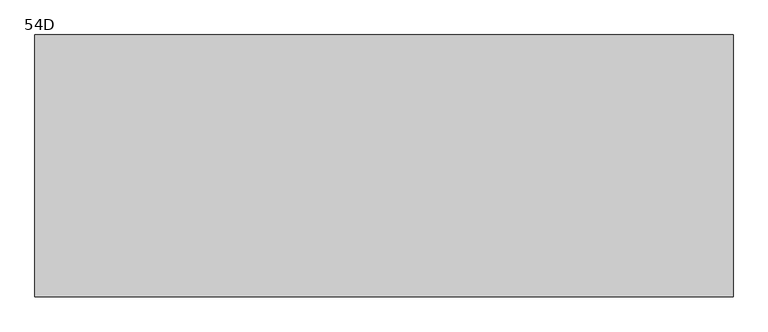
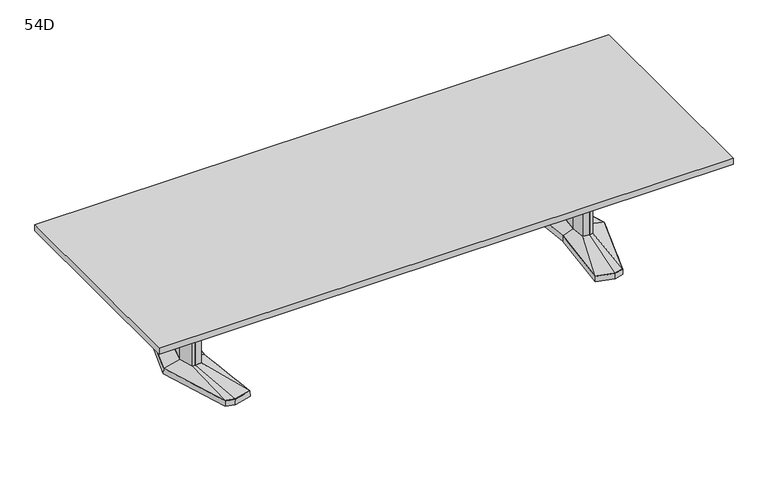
"""IFC4 building model written with IfcOpenShell, lengths in millimetres: furniture geometry, Coalesse_AM_Table_Conference_ETable2_Rectangular_12ft_AluminiumBase : 54D."""

from ifc_helpers import new_model, si_unit, frame, origin, place, context, project, spatial, polyline, outline, extrude, faceted_brep, source, transform, mapped, element, save
from ifc_brep_helpers import plane_surface, spline_surface, advanced_brep


def furniture_54d_a587961c(model_context):
    return source(origin(), model_context, "Body", "SolidModel", [
        faceted_brep([(1210.6306835, 455.5848221, 38.1), (1101.0531277, 426.2263816, 38.1), (1142.2163717, 0.0, 38.1), (1101.0531277, -426.2263816, 38.1), (1210.6306835, -455.5848221, 38.1), (1266.7570396, -440.5478297, 38.1), (1404.0684269, 0.0, 38.1), (1266.7570396, 440.5478297, 38.1), (1210.6306754, 457.2283104, 3.175), (1268.0124472, 441.8549756, 3.175), (1405.73125, 0.0, 3.175), (1268.0124472, -441.8549756, 3.175), (1210.6306754, -457.2283104, 3.175), (1099.34375, -427.4118891, 3.175), (1140.6214856, 0.0, 3.175), (1099.34375, 427.4118891, 3.175), (1214.220115, 428.3273875, 3.175), (1109.1718228, 402.1057253, 3.175), (1117.290518, 377.985069, 3.175), (1217.8095466, 401.0699529, 3.175), (1268.3691725, 387.524361, 3.175), (1267.5631061, 414.0360954, 3.175), (1214.220115, -428.3273875, 3.175), (1267.5631061, -414.0360954, 3.175), (1268.3691725, -387.524361, 3.175), (1217.8095466, -401.0699529, 3.175), (1117.290518, -377.985069, 3.175), (1109.1718228, -402.1057253, 3.175), (1340.8153621, 0.0, 3.175), (1308.5459611, 120.4193755, 3.175), (1259.8987222, 133.471665, 3.175), (1180.0180526, 119.4176561, 3.175), (1168.8868466, 0.0, 3.175), (1180.0180526, -119.4176561, 3.175), (1259.8987222, -133.471665, 3.175), (1308.5459611, -120.4193755, 3.175), (1214.220115, 428.3273875, 0.0), (1267.5631061, 414.0360954, 0.0), (1268.3691725, 387.524361, 0.0), (1217.8095466, 401.0699529, 0.0), (1117.290518, 377.985069, 0.0), (1109.1718228, 402.1057253, 0.0), (1214.220115, -428.3273875, 0.0), (1109.1718228, -402.1057253, 0.0), (1117.290518, -377.985069, 0.0), (1217.8095466, -401.0699529, 0.0), (1268.3691725, -387.524361, 0.0), (1267.5631061, -414.0360954, 0.0), (1340.8153621, 0.0, 0.0), (1308.5459611, -120.4193755, 0.0), (1259.8987222, -133.471665, 0.0), (1180.0180526, -119.4176561, 0.0), (1168.8868466, 0.0, 0.0), (1180.0180526, 119.4176561, 0.0), (1259.8987222, 133.471665, 0.0), (1308.5459611, 120.4193755, 0.0)], [[[0, 1, 2, 3, 4, 5, 6, 7]], [[8, 9, 10, 11, 12, 13, 14, 15], [16, 17, 18, 19, 20, 21], [22, 23, 24, 25, 26, 27], [28, 29, 30, 31, 32, 33, 34, 35]], [[7, 9, 8, 0]], [[6, 10, 9, 7]], [[5, 11, 10, 6]], [[4, 12, 11, 5]], [[3, 13, 12, 4]], [[2, 14, 13, 3]], [[1, 15, 14, 2]], [[0, 8, 15, 1]], [[36, 37, 38, 39, 40, 41]], [[42, 43, 44, 45, 46, 47]], [[48, 49, 50, 51, 52, 53, 54, 55]], [[36, 16, 21, 37]], [[37, 21, 20, 38]], [[38, 20, 19, 39]], [[39, 19, 18, 40]], [[40, 18, 17, 41]], [[41, 17, 16, 36]], [[42, 22, 27, 43]], [[43, 27, 26, 44]], [[44, 26, 25, 45]], [[45, 25, 24, 46]], [[46, 24, 23, 47]], [[47, 23, 22, 42]], [[48, 28, 35, 49]], [[49, 35, 34, 50]], [[50, 34, 33, 51]], [[51, 33, 32, 52]], [[52, 32, 31, 53]], [[53, 31, 30, 54]], [[54, 30, 29, 55]], [[55, 29, 28, 48]]]),
        faceted_brep([(1301.3710836, 0.0, 698.5), (1277.4358546, 89.3188359, 698.5), (1260.5824984, 93.8406728, 698.5), (1258.1826511, 94.4845635, 698.5), (1215.255146, 86.9320037, 698.5), (1207.1520056, 0.0, 698.5), (1215.255146, -86.9320037, 698.5), (1258.1826511, -94.4845635, 698.5), (1260.5824984, -93.8406728, 698.5), (1277.4358546, -89.3188359, 698.5), (1301.3710836, 0.0, 63.5), (1277.4358546, -89.3188359, 63.5), (1260.5824984, -93.8406728, 63.5), (1258.1826511, -94.4845635, 63.5), (1215.255146, -86.9320037, 63.5), (1207.1520056, 0.0, 63.5), (1215.255146, 86.9320037, 63.5), (1258.1826511, 94.4845635, 63.5), (1260.5824984, 93.8406728, 63.5), (1277.4358546, 89.3188359, 63.5)], [[[0, 1, 2, 3, 4, 5, 6, 7, 8, 9]], [[10, 11, 12, 13, 14, 15, 16, 17, 18, 19]], [[9, 11, 10, 0]], [[8, 12, 11, 9]], [[7, 13, 12, 8]], [[6, 14, 13, 7]], [[5, 15, 14, 6]], [[4, 16, 15, 5]], [[3, 17, 16, 4]], [[2, 18, 17, 3]], [[1, 19, 18, 2]], [[0, 10, 19, 1]]]),
        advanced_brep(
        [(1258.1826511, 94.4845635, 63.5), (1215.255146, 86.9320037, 63.5), (1207.1520056, 0.0, 63.5), (1215.255146, -86.9320037, 63.5), (1258.1826511, -94.4845635, 63.5), (1277.4358546, -89.3188359, 63.5), (1301.3710836, 0.0, 63.5), (1277.4358546, 89.3188359, 63.5), (1210.6306835, 455.5848221, 38.1), (1266.7570396, 440.5478297, 38.1), (1404.0684269, 0.0, 38.1), (1266.7570396, -440.5478297, 38.1), (1210.6306835, -455.5848221, 38.1), (1101.0531277, -426.2263816, 38.1), (1142.2163717, 0.0, 38.1), (1101.0531277, 426.2263816, 38.1)],
        [
            (0, 1),
            (1, 2),
            (2, 3),
            (3, 4),
            (4, 5),
            (5, 6),
            (6, 7),
            (7, 0),
            (8, 9),
            (9, 10),
            (10, 11),
            (11, 12),
            (12, 13),
            (13, 14),
            (14, 15),
            (15, 8),
            (8, 0),
            (7, 9),
            (6, 10),
            (5, 11),
            (4, 12),
            (3, 13),
            (2, 14),
            (1, 15),
        ],
        [
            plane_surface(frame((1251.2837991, 0.0, 63.5), z_axis=(0.0, 0.0, 1.0), x_axis=(-0.25884244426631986, -0.9659195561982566, 0.0))),
            plane_surface(frame((1212.8958125, 0.0, 38.1), z_axis=(0.0, 0.0, -1.0), x_axis=(-0.25884244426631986, -0.9659195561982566, 0.0))),
            spline_surface(1, 1, [[(1210.6306835, 455.5848221, 38.1), (1266.7570396, 440.5478297, 38.1)], [(1258.1826511, 94.4845635, 63.5), (1277.4358546, 89.3188359, 63.5)]], [2, 2], [2, 2], [0.0, 1.0], [0.0, 1.0]),
            spline_surface(1, 1, [[(1266.7570396, 440.5478297, 38.1), (1404.0684269, 0.0, 38.1)], [(1277.4358546, 89.3188359, 63.5), (1301.3710836, 0.0, 63.5)]], [2, 2], [2, 2], [0.0, 1.0], [0.0, 1.0]),
            spline_surface(1, 1, [[(1404.0684269, 0.0, 38.1), (1266.7570396, -440.5478297, 38.1)], [(1301.3710836, 0.0, 63.5), (1277.4358546, -89.3188359, 63.5)]], [2, 2], [2, 2], [0.0, 1.0], [0.0, 1.0]),
            spline_surface(1, 1, [[(1266.7570396, -440.5478297, 38.1), (1210.6306835, -455.5848221, 38.1)], [(1277.4358546, -89.3188359, 63.5), (1258.1826511, -94.4845635, 63.5)]], [2, 2], [2, 2], [0.0, 1.0], [0.0, 1.0]),
            spline_surface(1, 1, [[(1210.6306835, -455.5848221, 38.1), (1101.0531277, -426.2263816, 38.1)], [(1258.1826511, -94.4845635, 63.5), (1215.255146, -86.9320037, 63.5)]], [2, 2], [2, 2], [0.0, 1.0], [0.0, 1.0]),
            spline_surface(1, 1, [[(1101.0531277, -426.2263816, 38.1), (1142.2163717, 0.0, 38.1)], [(1215.255146, -86.9320037, 63.5), (1207.1520056, 0.0, 63.5)]], [2, 2], [2, 2], [0.0, 1.0], [0.0, 1.0]),
            spline_surface(1, 1, [[(1142.2163717, 0.0, 38.1), (1101.0531277, 426.2263816, 38.1)], [(1207.1520056, 0.0, 63.5), (1215.255146, 86.9320037, 63.5)]], [2, 2], [2, 2], [0.0, 1.0], [0.0, 1.0]),
            spline_surface(1, 1, [[(1101.0531277, 426.2263816, 38.1), (1210.6306835, 455.5848221, 38.1)], [(1215.255146, 86.9320037, 63.5), (1258.1826511, 94.4845635, 63.5)]], [2, 2], [2, 2], [0.0, 1.0], [0.0, 1.0]),
        ],
        [
            (0, [[1, 2, 3, 4, 5, 6, 7, 8]]),
            (1, [[9, 10, 11, 12, 13, 14, 15, 16]]),
            (2, [[17, -8, 18, -9]]),
            (3, [[-18, -7, 19, -10]]),
            (4, [[-19, -6, 20, -11]]),
            (5, [[-20, -5, 21, -12]]),
            (6, [[-21, -4, 22, -13]]),
            (7, [[-22, -3, 23, -14]]),
            (8, [[-23, -2, 24, -15]]),
            (9, [[-24, -1, -17, -16]]),
        ],
    ),
        faceted_brep([(-1210.6306835, 455.5848221, 38.1), (-1266.7570396, 440.5478297, 38.1), (-1404.0684269, 0.0, 38.1), (-1266.7570396, -440.5478297, 38.1), (-1210.6306835, -455.5848221, 38.1), (-1101.0531277, -426.2263816, 38.1), (-1142.2163717, 0.0, 38.1), (-1101.0531277, 426.2263816, 38.1), (-1210.6306754, 457.2283104, 3.175), (-1099.34375, 427.4118891, 3.175), (-1140.6214856, 0.0, 3.175), (-1099.34375, -427.4118891, 3.175), (-1210.6306754, -457.2283104, 3.175), (-1268.0124472, -441.8549756, 3.175), (-1405.73125, 0.0, 3.175), (-1268.0124472, 441.8549756, 3.175), (-1214.220115, 428.3273875, 3.175), (-1267.5631061, 414.0360954, 3.175), (-1268.3691725, 387.524361, 3.175), (-1217.8095466, 401.0699529, 3.175), (-1117.290518, 377.985069, 3.175), (-1109.1718228, 402.1057253, 3.175), (-1214.220115, -428.3273875, 3.175), (-1109.1718228, -402.1057253, 3.175), (-1117.290518, -377.985069, 3.175), (-1217.8095466, -401.0699529, 3.175), (-1268.3691725, -387.524361, 3.175), (-1267.5631061, -414.0360954, 3.175), (-1340.8153621, 0.0, 3.175), (-1308.5459611, -120.4193755, 3.175), (-1259.8987222, -133.471665, 3.175), (-1180.0180526, -119.4176561, 3.175), (-1168.8868466, 0.0, 3.175), (-1180.0180526, 119.4176561, 3.175), (-1259.8987222, 133.471665, 3.175), (-1308.5459611, 120.4193755, 3.175), (-1214.220115, 428.3273875, 0.0), (-1109.1718228, 402.1057253, 0.0), (-1117.290518, 377.985069, 0.0), (-1217.8095466, 401.0699529, 0.0), (-1268.3691725, 387.524361, 0.0), (-1267.5631061, 414.0360954, 0.0), (-1214.220115, -428.3273875, 0.0), (-1267.5631061, -414.0360954, 0.0), (-1268.3691725, -387.524361, 0.0), (-1217.8095466, -401.0699529, 0.0), (-1117.290518, -377.985069, 0.0), (-1109.1718228, -402.1057253, 0.0), (-1340.8153621, 0.0, 0.0), (-1308.5459611, 120.4193755, 0.0), (-1259.8987222, 133.471665, 0.0), (-1180.0180526, 119.4176561, 0.0), (-1168.8868466, 0.0, 0.0), (-1180.0180526, -119.4176561, 0.0), (-1259.8987222, -133.471665, 0.0), (-1308.5459611, -120.4193755, 0.0)], [[[0, 1, 2, 3, 4, 5, 6, 7]], [[8, 9, 10, 11, 12, 13, 14, 15], [16, 17, 18, 19, 20, 21], [22, 23, 24, 25, 26, 27], [28, 29, 30, 31, 32, 33, 34, 35]], [[1, 0, 8, 15]], [[2, 1, 15, 14]], [[3, 2, 14, 13]], [[4, 3, 13, 12]], [[5, 4, 12, 11]], [[6, 5, 11, 10]], [[7, 6, 10, 9]], [[0, 7, 9, 8]], [[36, 37, 38, 39, 40, 41]], [[42, 43, 44, 45, 46, 47]], [[48, 49, 50, 51, 52, 53, 54, 55]], [[36, 41, 17, 16]], [[41, 40, 18, 17]], [[40, 39, 19, 18]], [[39, 38, 20, 19]], [[38, 37, 21, 20]], [[37, 36, 16, 21]], [[42, 47, 23, 22]], [[47, 46, 24, 23]], [[46, 45, 25, 24]], [[45, 44, 26, 25]], [[44, 43, 27, 26]], [[43, 42, 22, 27]], [[48, 55, 29, 28]], [[55, 54, 30, 29]], [[54, 53, 31, 30]], [[53, 52, 32, 31]], [[52, 51, 33, 32]], [[51, 50, 34, 33]], [[50, 49, 35, 34]], [[49, 48, 28, 35]]]),
        faceted_brep([(-1301.3710836, 0.0, 698.5), (-1277.4358546, -89.3188359, 698.5), (-1260.5824984, -93.8406728, 698.5), (-1258.1826511, -94.4845635, 698.5), (-1215.255146, -86.9320037, 698.5), (-1207.1520056, 0.0, 698.5), (-1215.255146, 86.9320037, 698.5), (-1258.1826511, 94.4845635, 698.5), (-1260.5824984, 93.8406728, 698.5), (-1277.4358546, 89.3188359, 698.5), (-1301.3710836, 0.0, 63.5), (-1277.4358546, 89.3188359, 63.5), (-1260.5824984, 93.8406728, 63.5), (-1258.1826511, 94.4845635, 63.5), (-1215.255146, 86.9320037, 63.5), (-1207.1520056, 0.0, 63.5), (-1215.255146, -86.9320037, 63.5), (-1258.1826511, -94.4845635, 63.5), (-1260.5824984, -93.8406728, 63.5), (-1277.4358546, -89.3188359, 63.5)], [[[0, 1, 2, 3, 4, 5, 6, 7, 8, 9]], [[10, 11, 12, 13, 14, 15, 16, 17, 18, 19]], [[1, 0, 10, 19]], [[2, 1, 19, 18]], [[3, 2, 18, 17]], [[4, 3, 17, 16]], [[5, 4, 16, 15]], [[6, 5, 15, 14]], [[7, 6, 14, 13]], [[8, 7, 13, 12]], [[9, 8, 12, 11]], [[0, 9, 11, 10]]]),
        advanced_brep(
        [(-1258.1826511, 94.4845635, 63.5), (-1277.4358546, 89.3188359, 63.5), (-1301.3710836, 0.0, 63.5), (-1277.4358546, -89.3188359, 63.5), (-1258.1826511, -94.4845635, 63.5), (-1215.255146, -86.9320037, 63.5), (-1207.1520056, 0.0, 63.5), (-1215.255146, 86.9320037, 63.5), (-1210.6306835, 455.5848221, 38.1), (-1101.0531277, 426.2263816, 38.1), (-1142.2163717, 0.0, 38.1), (-1101.0531277, -426.2263816, 38.1), (-1210.6306835, -455.5848221, 38.1), (-1266.7570396, -440.5478297, 38.1), (-1404.0684269, 0.0, 38.1), (-1266.7570396, 440.5478297, 38.1)],
        [
            (0, 1),
            (1, 2),
            (2, 3),
            (3, 4),
            (4, 5),
            (5, 6),
            (6, 7),
            (7, 0),
            (8, 9),
            (9, 10),
            (10, 11),
            (11, 12),
            (12, 13),
            (13, 14),
            (14, 15),
            (15, 8),
            (15, 1),
            (0, 8),
            (14, 2),
            (13, 3),
            (12, 4),
            (11, 5),
            (10, 6),
            (9, 7),
        ],
        [
            plane_surface(frame((-1251.2837991, 0.0, 63.5), z_axis=(0.0, 0.0, 1.0), x_axis=(0.25884244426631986, -0.9659195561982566, 0.0))),
            plane_surface(frame((-1212.8958125, 0.0, 38.1), z_axis=(0.0, 0.0, -1.0), x_axis=(0.25884244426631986, -0.9659195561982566, 0.0))),
            spline_surface(1, 1, [[(-1210.6306835, 455.5848221, 38.1), (-1258.1826511, 94.4845635, 63.5)], [(-1266.7570396, 440.5478297, 38.1), (-1277.4358546, 89.3188359, 63.5)]], [2, 2], [2, 2], [0.0, 1.0], [0.0, 1.0]),
            spline_surface(1, 1, [[(-1266.7570396, 440.5478297, 38.1), (-1277.4358546, 89.3188359, 63.5)], [(-1404.0684269, 0.0, 38.1), (-1301.3710836, 0.0, 63.5)]], [2, 2], [2, 2], [0.0, 1.0], [0.0, 1.0]),
            spline_surface(1, 1, [[(-1404.0684269, 0.0, 38.1), (-1301.3710836, 0.0, 63.5)], [(-1266.7570396, -440.5478297, 38.1), (-1277.4358546, -89.3188359, 63.5)]], [2, 2], [2, 2], [0.0, 1.0], [0.0, 1.0]),
            spline_surface(1, 1, [[(-1266.7570396, -440.5478297, 38.1), (-1277.4358546, -89.3188359, 63.5)], [(-1210.6306835, -455.5848221, 38.1), (-1258.1826511, -94.4845635, 63.5)]], [2, 2], [2, 2], [0.0, 1.0], [0.0, 1.0]),
            spline_surface(1, 1, [[(-1210.6306835, -455.5848221, 38.1), (-1258.1826511, -94.4845635, 63.5)], [(-1101.0531277, -426.2263816, 38.1), (-1215.255146, -86.9320037, 63.5)]], [2, 2], [2, 2], [0.0, 1.0], [0.0, 1.0]),
            spline_surface(1, 1, [[(-1101.0531277, -426.2263816, 38.1), (-1215.255146, -86.9320037, 63.5)], [(-1142.2163717, 0.0, 38.1), (-1207.1520056, 0.0, 63.5)]], [2, 2], [2, 2], [0.0, 1.0], [0.0, 1.0]),
            spline_surface(1, 1, [[(-1142.2163717, 0.0, 38.1), (-1207.1520056, 0.0, 63.5)], [(-1101.0531277, 426.2263816, 38.1), (-1215.255146, 86.9320037, 63.5)]], [2, 2], [2, 2], [0.0, 1.0], [0.0, 1.0]),
            spline_surface(1, 1, [[(-1101.0531277, 426.2263816, 38.1), (-1215.255146, 86.9320037, 63.5)], [(-1210.6306835, 455.5848221, 38.1), (-1258.1826511, 94.4845635, 63.5)]], [2, 2], [2, 2], [0.0, 1.0], [0.0, 1.0]),
        ],
        [
            (0, [[1, 2, 3, 4, 5, 6, 7, 8]]),
            (1, [[9, 10, 11, 12, 13, 14, 15, 16]]),
            (2, [[-16, 17, -1, 18]]),
            (3, [[-15, 19, -2, -17]]),
            (4, [[-14, 20, -3, -19]]),
            (5, [[-13, 21, -4, -20]]),
            (6, [[-12, 22, -5, -21]]),
            (7, [[-11, 23, -6, -22]]),
            (8, [[-10, 24, -7, -23]]),
            (9, [[-9, -18, -8, -24]]),
        ],
    ),
        extrude(outline(polyline([(96.8375, 698.5), (103.1875, 698.5), (103.1875, 476.25), (-103.1875, 476.25), (-103.1875, 698.5), (-96.8375, 698.5), (-96.8375, 482.6), (96.8375, 482.6), (96.8375, 698.5)])), frame((-1207.29375, 0.0, 0.0), z_axis=(1.0, 0.0, 0.0), x_axis=(0.0, 1.0, 0.0)), (0.0, 0.0, 1.0), 2414.5875),
        extrude(outline(polyline([(1828.8, 685.8), (1828.8, -685.8), (-1828.8, -685.8), (-1828.8, 685.8), (1828.8, 685.8)])), frame((0.0, 0.0, 698.5), z_axis=(0.0, 0.0, 1.0), x_axis=(1.0, 0.0, 0.0)), (0.0, 0.0, 1.0), 38.1),
    ])


if __name__ == "__main__":
    model = new_model("IFC4")
    model_context = context("Model", 3, world=origin())
    ifc_project = project(units=[si_unit("LENGTHUNIT", "METRE", prefix="MILLI")], contexts=[model_context])
    site = spatial("IfcSite", under=ifc_project)
    building = spatial("IfcBuilding", under=site)
    placement = place(None, origin())
    furniture_54d_shape = furniture_54d_a587961c(model_context)
    element("IfcFurniture", 1, ObjectType="Coalesse_AM_Table_Conference_ETable2_Rectangular_12ft_AluminiumBase : 54D", at=placement, inside=building, context=model_context, shape_type="MappedRepresentation", body=[
        mapped(furniture_54d_shape, transform((0.0, 0.0, 0.0), x_axis=(1.0, 0.0, 0.0), y_axis=(0.0, 1.0, 0.0), z_axis=(0.0, 0.0, 1.0))),
    ])
    save(model, "model.ifc")
